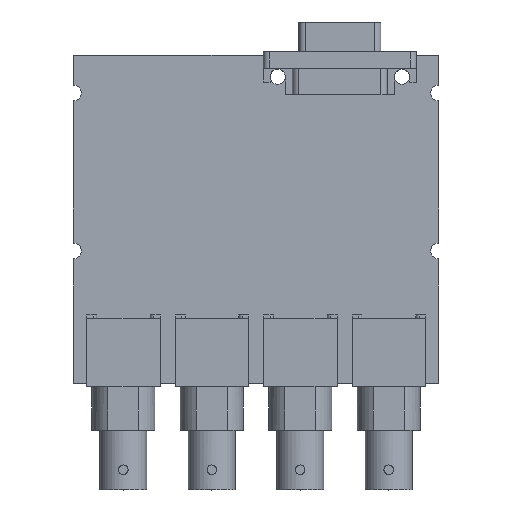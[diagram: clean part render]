
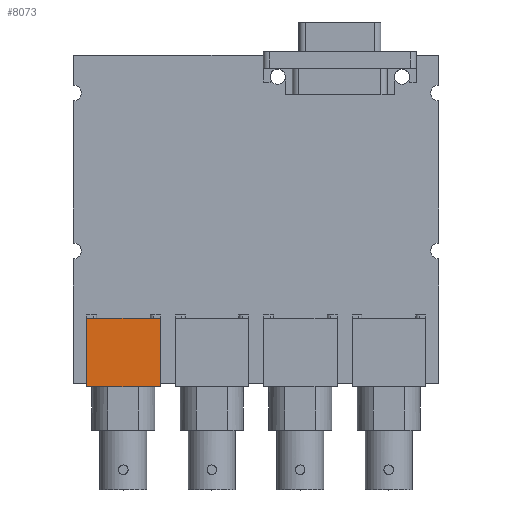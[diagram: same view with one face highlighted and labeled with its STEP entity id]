
A CAD part, top view. The second image highlights one B-rep face of the part: STEP entity #8073.
In plain terms, the highlighted planar face has unit normal (0, 0, 1).
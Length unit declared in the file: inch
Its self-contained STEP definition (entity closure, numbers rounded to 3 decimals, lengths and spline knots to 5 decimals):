
#1299=DIRECTION('',(0.,-1.,0.));
#1300=VECTOR('',#1299,0.54);
#1301=CARTESIAN_POINT('',(-1.339,-0.785,0.58));
#1302=LINE('',#1301,#1300);
#1463=DIRECTION('',(1.,0.,0.));
#1464=VECTOR('',#1463,0.581);
#1465=CARTESIAN_POINT('',(-1.339,-1.325,0.58));
#1466=LINE('',#1465,#1464);
#1730=DIRECTION('',(0.,-1.,0.));
#1731=VECTOR('',#1730,0.54);
#1732=CARTESIAN_POINT('',(-0.758,-0.785,0.58));
#1733=LINE('',#1732,#1731);
#1751=DIRECTION('',(-1.,0.,0.));
#1752=VECTOR('',#1751,0.581);
#1753=CARTESIAN_POINT('',(-0.758,-0.785,0.58));
#1754=LINE('',#1753,#1752);
#5149=CARTESIAN_POINT('',(-0.758,-0.785,0.58));
#5150=CARTESIAN_POINT('',(-1.339,-0.785,0.58));
#5151=VERTEX_POINT('',#5149);
#5152=VERTEX_POINT('',#5150);
#5153=CARTESIAN_POINT('',(-1.339,-1.325,0.58));
#5155=VERTEX_POINT('',#5153);
#5158=CARTESIAN_POINT('',(-0.758,-1.325,0.58));
#5160=VERTEX_POINT('',#5158);
#8060=CARTESIAN_POINT('',(-0.758,-0.785,0.58));
#8061=DIRECTION('',(0.,0.,1.));
#8062=DIRECTION('',(-1.,0.,0.));
#8063=AXIS2_PLACEMENT_3D('',#8060,#8061,#8062);
#8064=PLANE('',#8063);
#8065=ORIENTED_EDGE('',*,*,#7749,.F.);
#8066=ORIENTED_EDGE('',*,*,#7555,.F.);
#8068=ORIENTED_EDGE('',*,*,#8067,.F.);
#8070=ORIENTED_EDGE('',*,*,#8069,.T.);
#8071=EDGE_LOOP('',(#8065,#8066,#8068,#8070));
#8072=FACE_OUTER_BOUND('',#8071,.F.);
#8073=ADVANCED_FACE('',(#8072),#8064,.T.);
#7555=EDGE_CURVE('',#5152,#5155,#1302,.T.);
#7749=EDGE_CURVE('',#5155,#5160,#1466,.T.);
#8067=EDGE_CURVE('',#5151,#5152,#1754,.T.);
#8069=EDGE_CURVE('',#5151,#5160,#1733,.T.);
